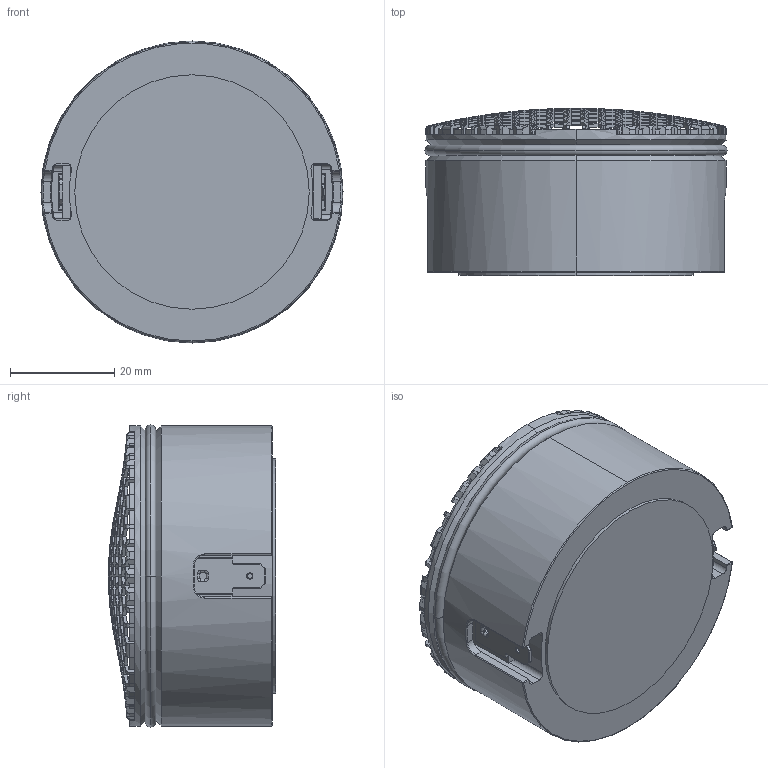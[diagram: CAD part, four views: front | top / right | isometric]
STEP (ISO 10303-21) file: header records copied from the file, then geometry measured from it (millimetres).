
FILE_DESCRIPTION (( 'STEP AP214' ), '1' );
FILE_NAME ('BD030-06-458.STEP', '2019-01-22T09:25:06', ( 'Thiel' ), ( '' ), 'SwSTEP 2.0', 'SolidWorks 2015', '' );
FILE_SCHEMA (( 'AUTOMOTIVE_DESIGN' ));
Length unit declared in the file: millimetre
Products named in the file (12): BD030-06-458; KLT1; TRM2_Standard; KLT3_Standard; TRM1_Standard; KLT2_Standard; KLT4_Standard; CM_Standard; GWS_Standard; GTR_Standard; KRB2_Standard; KRB1_Standard
Assembly tree (12 placements, depth 3):
  BD030-06-458
    KRB1_Standard
    KRB2_Standard
    GTR_Standard
    GWS_Standard
    CM_Standard
    TRM1_Standard
      KLT4_Standard
      KLT2_Standard
    TRM2_Standard
      KLT4_Standard
      KLT3_Standard
    KLT1
Bounding box: 58 x 32.09 x 58 mm (x, y, z)
Volume: 57889.2 mm3; surface area: 24347.7 mm2
Topology: 10 solids, 10 shells, 1839 faces, 5362 edges, 3487 vertices
Faces by surface type: plane 1350, cylinder 300, torus 83, bspline 64, sphere 24, cone 18
Entity records: 73842 total; most frequent: CARTESIAN_POINT 29381, ORIENTED_EDGE 10656, DIRECTION 6828, EDGE_CURVE 5328, VERTEX_POINT 3475, B_SPLINE_CURVE_WITH_KNOTS 2680, AXIS2_PLACEMENT_3D 2420, EDGE_LOOP 2149
